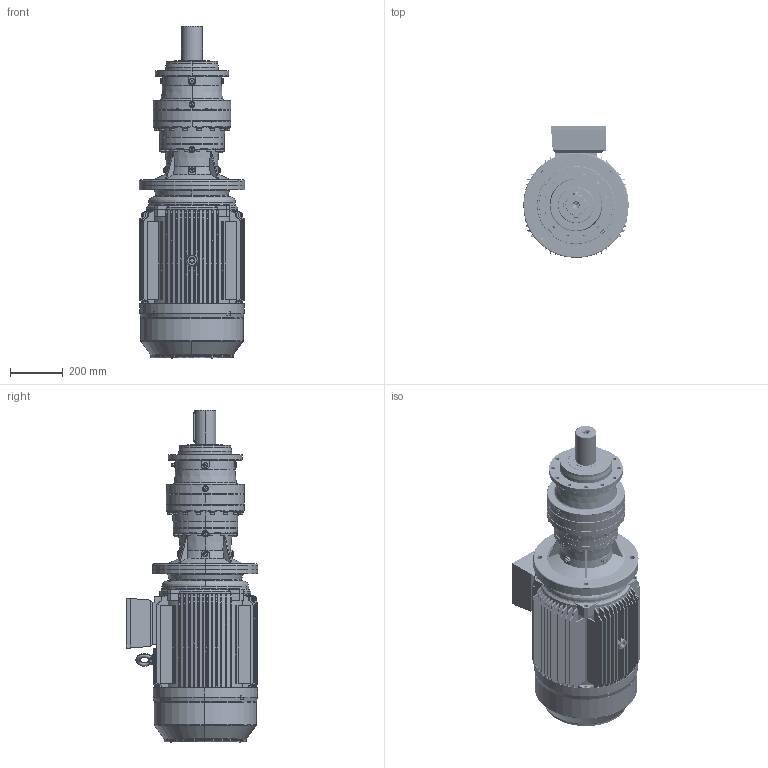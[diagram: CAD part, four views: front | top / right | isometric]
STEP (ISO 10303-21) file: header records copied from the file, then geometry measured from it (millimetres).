
FILE_DESCRIPTION (( 'STEP AP203' ), '1' );
FILE_NAME ('PVL-1902L-HS200-4.STEP', '2019-05-22T09:12:29', ( '' ), ( '' ), 'SwSTEP 2.0', 'SolidWorks 2012', '' );
FILE_SCHEMA (( 'CONFIG_CONTROL_DESIGN' ));
Length unit declared in the file: millimetre
Products named in the file (18): PVL-1902L-HS200-4; PNL_1902L_0_0_A20_B5_ML25A_FL5A_0_0_0_0_0_0_0_0_0_0_0_M1; HS200-4-B5; Plain parallel keys_GB_CONNECTING_PIECE_KEYS_CSK 16X100; 200-4B5; ﾍﾟYE3-200L-4.6.8C+ﾎA+ｳ_-ｼ+､; Y2-200-4.6.8Ã¦Íß¦ð-Ô©Ã_-¼+¤; Y2-200-4.6.8¦¾Íß¦ð-Ô©Ã_-¼+¤; Y2-200-2.4.6.8ｦｾﾂ-ｩﾃ_-ｼ+､; MN2-200ﾀiﾍ_-ｼ+､; Y2-200-4.6.8-ｦﾈﾁﾂ-ｩﾃ_-ｼ+､; Eyebolts GB_GB_FASTENER_SCREWS_FRS M16-N; Y2-200+ｷﾎｨB5_-ｼ+､; EK1902L_Varsayìlan; FL5A_Varsayìlan; ML25A_Varsayìlan; 15200B5_Varsayìlan; P19_Varsayìlan
Assembly tree (17 placements, depth 4):
  PVL-1902L-HS200-4
    PNL_1902L_0_0_A20_B5_ML25A_FL5A_0_0_0_0_0_0_0_0_0_0_0_M1
      P19_Varsayìlan
      15200B5_Varsayìlan
      ML25A_Varsayìlan
      EK1902L_Varsayìlan
      FL5A_Varsayìlan
    HS200-4-B5
      200-4B5
        Y2-200-4.6.8-ｦﾈﾁﾂ-ｩﾃ_-ｼ+､
        MN2-200ﾀiﾍ_-ｼ+､
        Eyebolts GB_GB_FASTENER_SCREWS_FRS M16-N
        Y2-200+ｷﾎｨB5_-ｼ+､
        Y2-200-4.6.8Ã¦Íß¦ð-Ô©Ã_-¼+¤
        ﾍﾟYE3-200L-4.6.8C+ﾎA+ｳ_-ｼ+､
        Y2-200-2.4.6.8ｦｾﾂ-ｩﾃ_-ｼ+､
        Y2-200-4.6.8¦¾Íß¦ð-Ô©Ã_-¼+¤
        Plain parallel keys_GB_CONNECTING_PIECE_KEYS_CSK 16X100
Bounding box: 400 x 501.01 x 1260.2 mm (x, y, z)
Volume: 41518617.6 mm3; surface area: 5084573.8 mm2
Topology: 18 solids, 18 shells, 3859 faces, 9941 edges, 6232 vertices
Faces by surface type: cylinder 1321, plane 1263, cone 1047, bspline 228
Entity records: 132983 total; most frequent: CARTESIAN_POINT 36997, DIRECTION 20321, ORIENTED_EDGE 19750, EDGE_CURVE 9875, AXIS2_PLACEMENT_3D 8016, VERTEX_POINT 6232, CIRCLE 4362, LINE 4289
